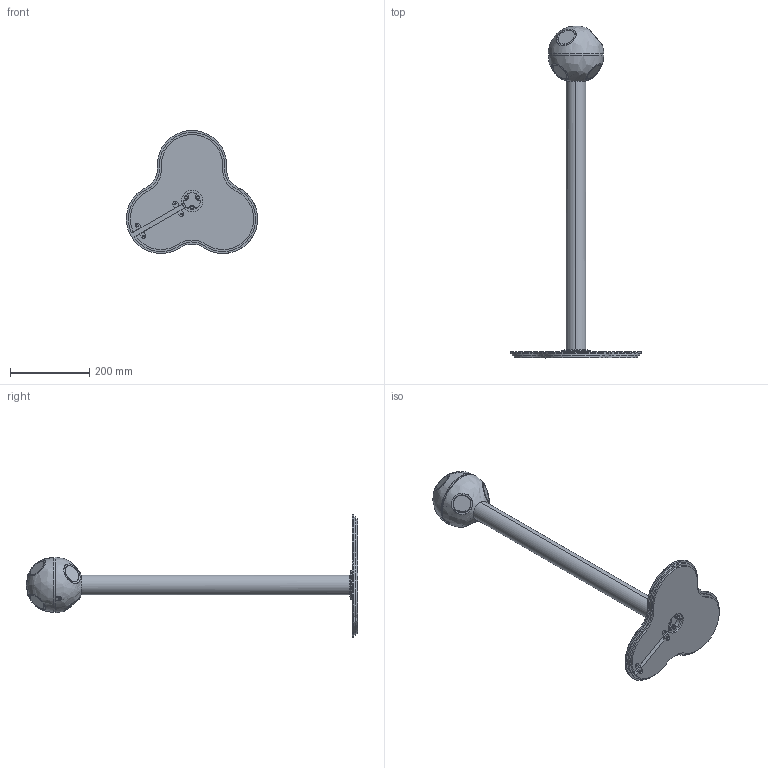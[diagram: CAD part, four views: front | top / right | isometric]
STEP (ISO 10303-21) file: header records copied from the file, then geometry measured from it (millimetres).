
FILE_DESCRIPTION (( 'STEP AP203' ), '1' );
FILE_NAME ('Pelican_Duo_1.STEP', '2023-01-13T13:53:37', ( '' ), ( '' ), 'SwSTEP 2.0', 'SolidWorks 2021', '' );
FILE_SCHEMA (( 'CONFIG_CONTROL_DESIGN' ));
Length unit declared in the file: millimetre
Products named in the file (1): Pelican_Duo_1
Bounding box: 330.88 x 836.2 x 309.81 mm (x, y, z)
Volume: 3697360.3 mm3; surface area: 364799.9 mm2
Topology: 1 solids, 15 shells, 1054 faces, 2843 edges, 1847 vertices
Faces by surface type: plane 481, cylinder 251, bspline 170, cone 97, torus 53, sphere 2
Entity records: 40108 total; most frequent: CARTESIAN_POINT 14912, ORIENTED_EDGE 5646, DIRECTION 4702, EDGE_CURVE 2823, VERTEX_POINT 1847, AXIS2_PLACEMENT_3D 1690, LINE 1322, VECTOR 1322
